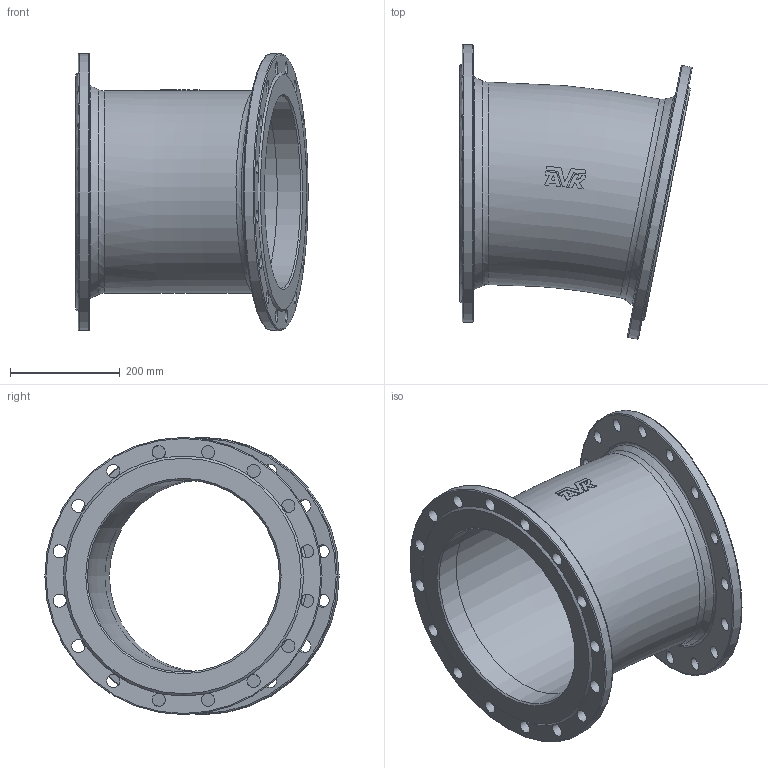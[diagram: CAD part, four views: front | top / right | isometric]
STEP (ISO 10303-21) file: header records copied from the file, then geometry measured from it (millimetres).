
FILE_DESCRIPTION (( 'STEP AP203' ), '1' );
FILE_NAME ('O_712_0110_DN350_0X_REV01.step', '2024-08-15T09:05:33', ( '' ), ( '' ), 'SwSTEP 2.0', 'SolidWorks 2022', '' );
FILE_SCHEMA (( 'CONFIG_CONTROL_DESIGN' ));
Length unit declared in the file: millimetre
Products named in the file (1): O_712_0110_DN350_0X_REV01
Bounding box: 423.29 x 536.26 x 505 mm (x, y, z)
Volume: 8188828.9 mm3; surface area: 1261114.6 mm2
Topology: 1 solids, 1 shells, 99 faces, 355 edges, 234 vertices
Faces by surface type: plane 41, cylinder 38, torus 12, cone 6, bspline 2
Full cylindrical faces by diameter (mm): 24 x32, 350 x2, 505 x2
Entity records: 5771 total; most frequent: CARTESIAN_POINT 3146, ORIENTED_EDGE 526, DIRECTION 465, EDGE_CURVE 263, AXIS2_PLACEMENT_3D 214, VERTEX_POINT 194, EDGE_LOOP 193, FACE_OUTER_BOUND 145
